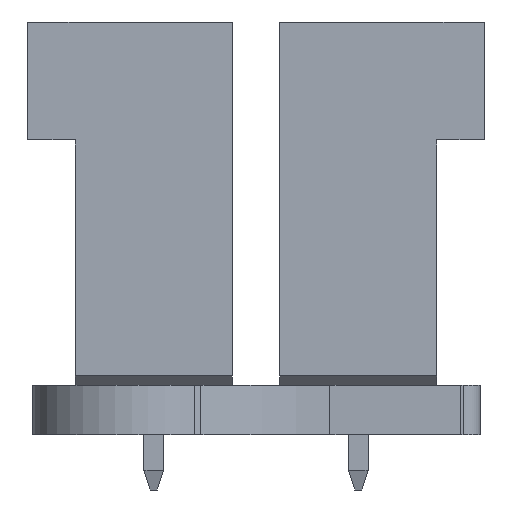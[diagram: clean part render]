
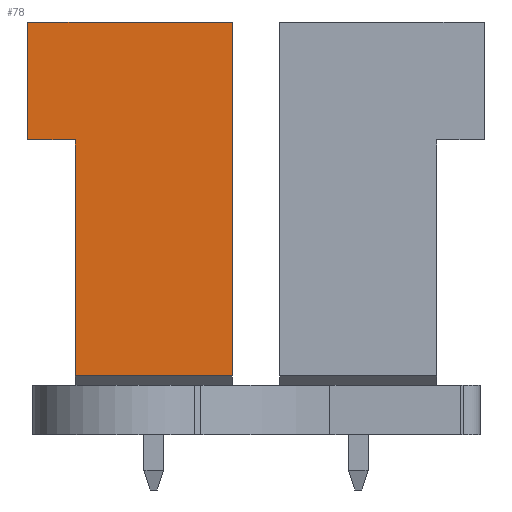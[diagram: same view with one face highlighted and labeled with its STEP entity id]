
A CAD part, left-side view. The second image highlights one B-rep face of the part: STEP entity #78.
In plain terms, the highlighted planar face has unit normal (-1, 0, 0).
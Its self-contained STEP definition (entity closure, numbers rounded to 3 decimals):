
#78 = ADVANCED_FACE('',(#79),#129,.F.);
#79 = FACE_BOUND('',#80,.F.);
#80 = EDGE_LOOP('',(#81,#91,#99,#107,#115,#123));
#81 = ORIENTED_EDGE('',*,*,#82,.T.);
#82 = EDGE_CURVE('',#83,#85,#87,.T.);
#83 = VERTEX_POINT('',#84);
#84 = CARTESIAN_POINT('',(-3.683,-2.54,3.81));
#85 = VERTEX_POINT('',#86);
#86 = CARTESIAN_POINT('',(-3.683,-2.54,-7.62));
#87 = LINE('',#88,#89);
#88 = CARTESIAN_POINT('',(-3.683,-2.54,3.81));
#89 = VECTOR('',#90,1.);
#90 = DIRECTION('',(0.,0.,-1.));
#91 = ORIENTED_EDGE('',*,*,#92,.T.);
#92 = EDGE_CURVE('',#85,#93,#95,.T.);
#93 = VERTEX_POINT('',#94);
#94 = CARTESIAN_POINT('',(-3.683,2.54,-7.62));
#95 = LINE('',#96,#97);
#96 = CARTESIAN_POINT('',(-3.683,-2.54,-7.62));
#97 = VECTOR('',#98,1.);
#98 = DIRECTION('',(0.,1.,0.));
#99 = ORIENTED_EDGE('',*,*,#100,.T.);
#100 = EDGE_CURVE('',#93,#101,#103,.T.);
#101 = VERTEX_POINT('',#102);
#102 = CARTESIAN_POINT('',(-3.683,2.54,0.));
#103 = LINE('',#104,#105);
#104 = CARTESIAN_POINT('',(-3.683,2.54,-7.62));
#105 = VECTOR('',#106,1.);
#106 = DIRECTION('',(0.,0.,1.));
#107 = ORIENTED_EDGE('',*,*,#108,.T.);
#108 = EDGE_CURVE('',#101,#109,#111,.T.);
#109 = VERTEX_POINT('',#110);
#110 = CARTESIAN_POINT('',(-3.683,4.064,0.));
#111 = LINE('',#112,#113);
#112 = CARTESIAN_POINT('',(-3.683,2.54,0.));
#113 = VECTOR('',#114,1.);
#114 = DIRECTION('',(0.,1.,0.));
#115 = ORIENTED_EDGE('',*,*,#116,.T.);
#116 = EDGE_CURVE('',#109,#117,#119,.T.);
#117 = VERTEX_POINT('',#118);
#118 = CARTESIAN_POINT('',(-3.683,4.064,3.81));
#119 = LINE('',#120,#121);
#120 = CARTESIAN_POINT('',(-3.683,4.064,0.));
#121 = VECTOR('',#122,1.);
#122 = DIRECTION('',(0.,0.,1.));
#123 = ORIENTED_EDGE('',*,*,#124,.T.);
#124 = EDGE_CURVE('',#117,#83,#125,.T.);
#125 = LINE('',#126,#127);
#126 = CARTESIAN_POINT('',(-3.683,4.064,3.81));
#127 = VECTOR('',#128,1.);
#128 = DIRECTION('',(0.,-1.,0.));
#129 = PLANE('',#130);
#130 = AXIS2_PLACEMENT_3D('',#131,#132,#133);
#131 = CARTESIAN_POINT('',(-3.683,0.,0.));
#132 = DIRECTION('',(1.,0.,0.));
#133 = DIRECTION('',(0.,0.,-1.));
